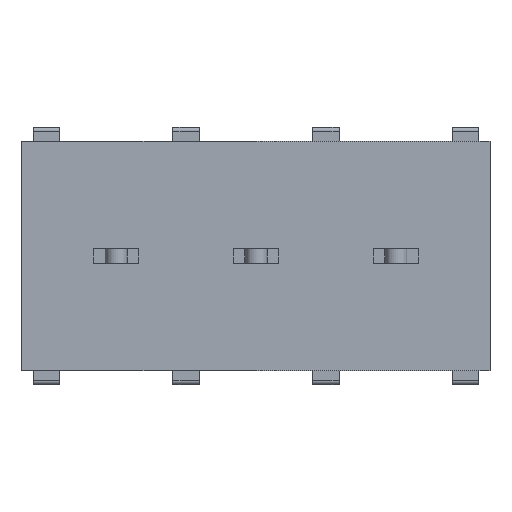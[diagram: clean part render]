
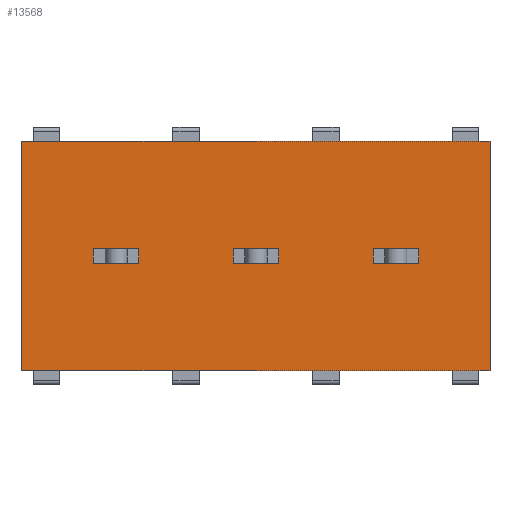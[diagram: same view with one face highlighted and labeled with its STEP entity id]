
A CAD part, front view. The second image highlights one B-rep face of the part: STEP entity #13568.
In plain terms, the highlighted planar face has unit normal (0, -1, 0).
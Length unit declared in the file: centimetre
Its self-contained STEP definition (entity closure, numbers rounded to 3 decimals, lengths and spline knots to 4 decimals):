
#867=VERTEX_POINT('',#17173);
#868=VERTEX_POINT('',#17174);
#875=VERTEX_POINT('',#17189);
#894=VERTEX_POINT('',#17245);
#1232=VERTEX_POINT('',#18756);
#1233=VERTEX_POINT('',#18758);
#1404=VERTEX_POINT('',#19322);
#1405=VERTEX_POINT('',#19323);
#1408=VERTEX_POINT('',#19331);
#1434=VERTEX_POINT('',#19401);
#1612=VERTEX_POINT('',#19999);
#1613=VERTEX_POINT('',#20000);
#1616=VERTEX_POINT('',#20008);
#1642=VERTEX_POINT('',#20078);
#2066=VERTEX_POINT('',#21852);
#2067=VERTEX_POINT('',#21854);
#2200=VECTOR('',#14405,1.);
#2206=VECTOR('',#14414,1.);
#2229=VECTOR('',#14458,1.);
#2239=VECTOR('',#14476,1.);
#2637=VECTOR('',#15010,1.);
#2812=VECTOR('',#15402,1.);
#2816=VECTOR('',#15407,1.);
#2844=VECTOR('',#15460,1.);
#2846=VECTOR('',#15463,1.);
#3036=VECTOR('',#15879,1.);
#3040=VECTOR('',#15884,1.);
#3068=VECTOR('',#15937,1.);
#3070=VECTOR('',#15940,1.);
#3586=VECTOR('',#16700,1.);
#3590=VECTOR('',#16706,1.);
#3591=VECTOR('',#16708,1.);
#3728=LINE('',#17172,#2200);
#3734=LINE('',#17188,#2206);
#3757=LINE('',#17244,#2229);
#3767=LINE('',#17266,#2239);
#4165=LINE('',#18757,#2637);
#4340=LINE('',#19321,#2812);
#4344=LINE('',#19330,#2816);
#4372=LINE('',#19400,#2844);
#4374=LINE('',#19404,#2846);
#4564=LINE('',#19998,#3036);
#4568=LINE('',#20007,#3040);
#4596=LINE('',#20077,#3068);
#4598=LINE('',#20081,#3070);
#5114=LINE('',#21853,#3586);
#5118=LINE('',#21860,#3590);
#5119=LINE('',#21862,#3591);
#5327=EDGE_CURVE('',#867,#868,#3728,.T.);
#5335=EDGE_CURVE('',#868,#875,#3734,.T.);
#5363=EDGE_CURVE('',#875,#894,#3757,.T.);
#5375=EDGE_CURVE('',#894,#867,#3767,.T.);
#5877=EDGE_CURVE('',#1233,#1232,#4165,.T.);
#6136=EDGE_CURVE('',#1404,#1405,#4340,.T.);
#6140=EDGE_CURVE('',#1408,#1404,#4344,.T.);
#6175=EDGE_CURVE('',#1434,#1408,#4372,.T.);
#6178=EDGE_CURVE('',#1405,#1434,#4374,.T.);
#6452=EDGE_CURVE('',#1612,#1613,#4564,.T.);
#6456=EDGE_CURVE('',#1616,#1612,#4568,.T.);
#6491=EDGE_CURVE('',#1642,#1616,#4596,.T.);
#6494=EDGE_CURVE('',#1613,#1642,#4598,.T.);
#7138=EDGE_CURVE('',#2067,#2066,#5114,.T.);
#7142=EDGE_CURVE('',#1232,#2067,#5118,.T.);
#7143=EDGE_CURVE('',#1233,#2066,#5119,.T.);
#11152=ORIENTED_EDGE('',*,*,#5363,.F.);
#11153=ORIENTED_EDGE('',*,*,#5335,.F.);
#11154=ORIENTED_EDGE('',*,*,#5327,.F.);
#11155=ORIENTED_EDGE('',*,*,#5375,.F.);
#11156=ORIENTED_EDGE('',*,*,#6140,.T.);
#11157=ORIENTED_EDGE('',*,*,#6136,.T.);
#11158=ORIENTED_EDGE('',*,*,#6178,.T.);
#11159=ORIENTED_EDGE('',*,*,#6175,.T.);
#11160=ORIENTED_EDGE('',*,*,#6456,.T.);
#11161=ORIENTED_EDGE('',*,*,#6452,.T.);
#11162=ORIENTED_EDGE('',*,*,#6494,.T.);
#11163=ORIENTED_EDGE('',*,*,#6491,.T.);
#11164=ORIENTED_EDGE('',*,*,#7138,.T.);
#11165=ORIENTED_EDGE('',*,*,#7143,.F.);
#11166=ORIENTED_EDGE('',*,*,#5877,.T.);
#11167=ORIENTED_EDGE('',*,*,#7142,.T.);
#12001=EDGE_LOOP('',(#11152,#11153,#11154,#11155));
#12002=EDGE_LOOP('',(#11156,#11157,#11158,#11159));
#12003=EDGE_LOOP('',(#11160,#11161,#11162,#11163));
#12004=EDGE_LOOP('',(#11164,#11165,#11166,#11167));
#12815=FACE_BOUND('',#12001,.T.);
#12816=FACE_BOUND('',#12002,.T.);
#12817=FACE_BOUND('',#12003,.T.);
#12818=FACE_BOUND('',#12004,.T.);
#13568=ADVANCED_FACE('',(#12815,#12816,#12817,#12818),#14101,.T.);
#14101=PLANE('',#22676);
#14405=DIRECTION('',(-1.,0.,0.));
#14414=DIRECTION('',(0.,0.,-1.));
#14458=DIRECTION('',(1.,0.,0.));
#14476=DIRECTION('',(0.,0.,1.));
#15010=DIRECTION('',(0.,0.,1.));
#15402=DIRECTION('',(0.,0.,1.));
#15407=DIRECTION('',(-1.,0.,0.));
#15460=DIRECTION('',(0.,0.,-1.));
#15463=DIRECTION('',(1.,0.,0.));
#15879=DIRECTION('',(0.,0.,1.));
#15884=DIRECTION('',(-1.,0.,0.));
#15937=DIRECTION('',(0.,0.,-1.));
#15940=DIRECTION('',(1.,0.,0.));
#16700=DIRECTION('',(0.,0.,-1.));
#16706=DIRECTION('',(-1.,0.,0.));
#16707=DIRECTION('',(0.,-1.,0.));
#16708=DIRECTION('',(-1.,0.,0.));
#17172=CARTESIAN_POINT('',(-0.465,0.,0.04));
#17173=CARTESIAN_POINT('',(-0.185,0.,0.04));
#17174=CARTESIAN_POINT('',(-0.435,0.,0.04));
#17188=CARTESIAN_POINT('',(-0.435,0.,0.));
#17189=CARTESIAN_POINT('',(-0.435,0.,-0.04));
#17244=CARTESIAN_POINT('',(-0.465,0.,-0.04));
#17245=CARTESIAN_POINT('',(-0.185,0.,-0.04));
#17266=CARTESIAN_POINT('',(-0.185,0.,0.));
#18756=CARTESIAN_POINT('',(1.726,0.,0.625));
#18757=CARTESIAN_POINT('',(1.726,0.,-0.625));
#18758=CARTESIAN_POINT('',(1.726,0.,-0.625));
#19321=CARTESIAN_POINT('',(1.089,0.,0.));
#19322=CARTESIAN_POINT('',(1.089,0.,-0.04));
#19323=CARTESIAN_POINT('',(1.089,0.,0.04));
#19330=CARTESIAN_POINT('',(0.607,0.,-0.04));
#19331=CARTESIAN_POINT('',(1.339,0.,-0.04));
#19400=CARTESIAN_POINT('',(1.339,0.,0.));
#19401=CARTESIAN_POINT('',(1.339,0.,0.04));
#19404=CARTESIAN_POINT('',(0.607,0.,0.04));
#19998=CARTESIAN_POINT('',(0.327,0.,0.));
#19999=CARTESIAN_POINT('',(0.327,0.,-0.04));
#20000=CARTESIAN_POINT('',(0.327,0.,0.04));
#20007=CARTESIAN_POINT('',(0.226,0.,-0.04));
#20008=CARTESIAN_POINT('',(0.577,0.,-0.04));
#20077=CARTESIAN_POINT('',(0.577,0.,0.));
#20078=CARTESIAN_POINT('',(0.577,0.,0.04));
#20081=CARTESIAN_POINT('',(0.226,0.,0.04));
#21852=CARTESIAN_POINT('',(-0.822,0.,-0.625));
#21853=CARTESIAN_POINT('',(-0.822,0.,0.625));
#21854=CARTESIAN_POINT('',(-0.822,0.,0.625));
#21860=CARTESIAN_POINT('',(-0.762,0.,0.625));
#21861=CARTESIAN_POINT('',(-0.762,0.,0.));
#21862=CARTESIAN_POINT('',(-0.762,0.,-0.625));
#22676=AXIS2_PLACEMENT_3D('',#21861,#16707,$);
